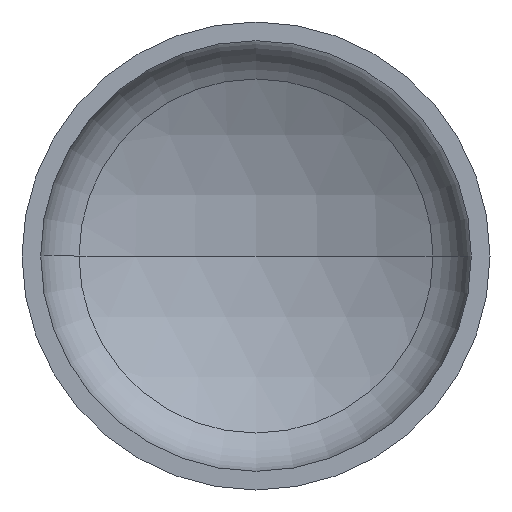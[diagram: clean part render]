
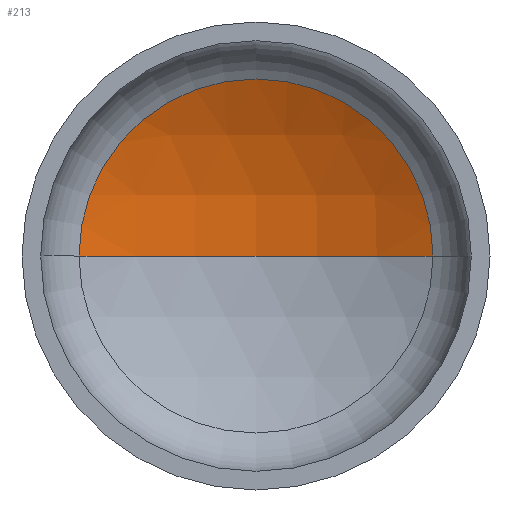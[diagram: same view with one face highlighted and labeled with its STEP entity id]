
A CAD part, front view. The second image highlights one B-rep face of the part: STEP entity #213.
In plain terms, the highlighted spherical face has radius 1600 mm.
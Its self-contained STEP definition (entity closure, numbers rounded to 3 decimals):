
#6 = CARTESIAN_POINT ( 'NONE',  ( 0., 393.151, 0. ) ) ;
#7 = ORIENTED_EDGE ( 'NONE', *, *, #346, .T. ) ;
#9 = EDGE_LOOP ( 'NONE', ( #64, #16, #7 ) ) ;
#16 = ORIENTED_EDGE ( 'NONE', *, *, #354, .T. ) ;
#19 = AXIS2_PLACEMENT_3D ( 'NONE', #297, #97, #146 ) ;
#23 = AXIS2_PLACEMENT_3D ( 'NONE', #6, #170, #171 ) ;
#42 = AXIS2_PLACEMENT_3D ( 'NONE', #169, #165, #168 ) ;
#63 = AXIS2_PLACEMENT_3D ( 'NONE', #318, #349, #198 ) ;
#64 = ORIENTED_EDGE ( 'NONE', *, *, #333, .F. ) ;
#66 = VERTEX_POINT ( 'NONE', #254 ) ;
#81 = SPHERICAL_SURFACE ( 'NONE', #63, 1600. ) ;
#97 = DIRECTION ( 'NONE',  ( 0., 0., -1. ) ) ;
#103 = VERTEX_POINT ( 'NONE', #242 ) ;
#146 = DIRECTION ( 'NONE',  ( -1., 0., 0. ) ) ;
#165 = DIRECTION ( 'NONE',  ( 0., 0., 1. ) ) ;
#168 = DIRECTION ( 'NONE',  ( 1., 0., 0. ) ) ;
#169 = CARTESIAN_POINT ( 'NONE',  ( 0., -1016.662, 0. ) ) ;
#170 = DIRECTION ( 'NONE',  ( 0., -1., 0. ) ) ;
#171 = DIRECTION ( 'NONE',  ( 1., 0., 0. ) ) ;
#198 = DIRECTION ( 'NONE',  ( -1., 0., 0. ) ) ;
#213 = ADVANCED_FACE ( 'NONE', ( #366 ), #81, .F. ) ;
#242 = CARTESIAN_POINT ( 'NONE',  ( -756.589, 393.151, 0. ) ) ;
#254 = CARTESIAN_POINT ( 'NONE',  ( 0., 583.338, 0. ) ) ;
#277 = CARTESIAN_POINT ( 'NONE',  ( 756.589, 393.151, 0. ) ) ;
#281 = VERTEX_POINT ( 'NONE', #277 ) ;
#297 = CARTESIAN_POINT ( 'NONE',  ( 0., -1016.662, 0. ) ) ;
#318 = CARTESIAN_POINT ( 'NONE',  ( 0., -1016.662, 0. ) ) ;
#333 = EDGE_CURVE ( 'NONE', #66, #103, #345, .T. ) ;
#345 = CIRCLE ( 'NONE', #42, 1600. ) ;
#346 = EDGE_CURVE ( 'NONE', #281, #103, #401, .T. ) ;
#349 = DIRECTION ( 'NONE',  ( 0., 0., -1. ) ) ;
#354 = EDGE_CURVE ( 'NONE', #66, #281, #389, .T. ) ;
#366 = FACE_OUTER_BOUND ( 'NONE', #9, .T. ) ;
#389 = CIRCLE ( 'NONE', #19, 1600. ) ;
#401 = CIRCLE ( 'NONE', #23, 756.589 ) ;
